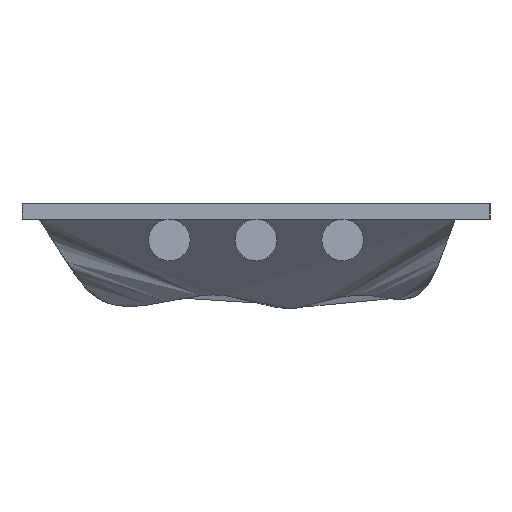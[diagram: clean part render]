
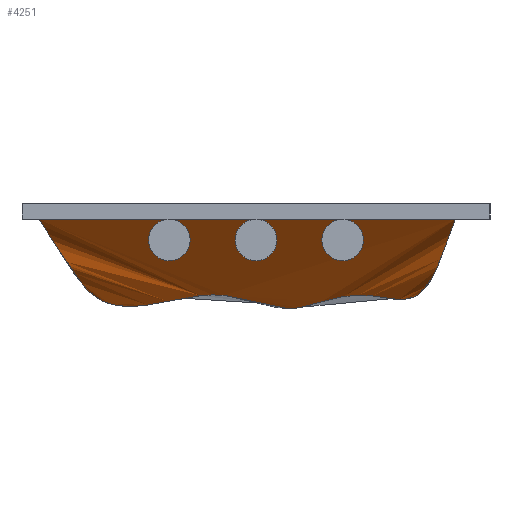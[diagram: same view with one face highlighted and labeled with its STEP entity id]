
A CAD part, left-side view. The second image highlights one B-rep face of the part: STEP entity #4251.
In plain terms, the highlighted free-form (B-spline) face has degree [3, 1] with [13, 2] control points.
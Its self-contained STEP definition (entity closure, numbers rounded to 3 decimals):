
#85=B_SPLINE_SURFACE_WITH_KNOTS('',3,1,((#8791,#8792),(#8793,#8794),(#8795,
#8796),(#8797,#8798),(#8799,#8800),(#8801,#8802),(#8803,#8804),(#8805,#8806),
(#8807,#8808),(#8809,#8810),(#8811,#8812),(#8813,#8814),(#8815,#8816)),
 .SURF_OF_LINEAR_EXTRUSION.,.F.,.F.,.F.,(4,1,1,1,1,1,1,1,1,1,4),(2,2),(0.,
0.225,0.337,0.449,0.562,
0.674,0.73,0.786,0.814,
0.842,0.899),(0.,1.),.UNSPECIFIED.);
#183=B_SPLINE_CURVE_WITH_KNOTS('',3,(#8727,#8728,#8729,#8730,#8731,#8732,
#8733,#8734,#8735,#8736,#8737,#8738,#8739,#8740,#8741,#8742,#8743,#8744,
#8745,#8746,#8747,#8748,#8749,#8750,#8751,#8752,#8753,#8754,#8755,#8756),
 .UNSPECIFIED.,.F.,.F.,(4,1,1,1,1,1,1,1,1,1,1,1,1,1,1,1,1,1,1,1,1,1,1,1,
1,1,1,4),(0.,0.001,0.001,
0.002,0.002,0.003,0.003,
0.004,0.004,0.005,0.005,
0.006,0.006,0.007,0.007,
0.008,0.009,0.01,0.011,
0.011,0.012,0.012,0.013,
0.013,0.014,0.014,0.015,
0.016),.UNSPECIFIED.);
#1331=ORIENTED_EDGE('',*,*,#1908,.T.);
#1332=ORIENTED_EDGE('',*,*,#1905,.F.);
#1905=EDGE_CURVE('',#2297,#2298,#183,.T.);
#1908=EDGE_CURVE('',#2297,#2298,#2775,.T.);
#2297=VERTEX_POINT('',#8726);
#2298=VERTEX_POINT('',#8757);
#2775=LINE('',#8789,#3252);
#3252=VECTOR('',#5423,1000.);
#3537=EDGE_LOOP('',(#1331,#1332));
#3822=FACE_BOUND('',#3537,.T.);
#4251=ADVANCED_FACE('',(#3822),#85,.T.);
#5423=DIRECTION('',(1.,0.,0.));
#8726=CARTESIAN_POINT('',(0.,0.,0.));
#8727=CARTESIAN_POINT('',(0.,0.,0.));
#8728=CARTESIAN_POINT('',(0.071,0.196,-0.26));
#8729=CARTESIAN_POINT('',(0.173,0.461,-0.683));
#8730=CARTESIAN_POINT('',(0.376,1.02,-0.988));
#8731=CARTESIAN_POINT('',(0.547,1.451,-1.199));
#8732=CARTESIAN_POINT('',(0.683,1.716,-1.599));
#8733=CARTESIAN_POINT('',(0.842,2.007,-1.985));
#8734=CARTESIAN_POINT('',(1.241,2.321,-2.149));
#8735=CARTESIAN_POINT('',(1.757,2.325,-2.16));
#8736=CARTESIAN_POINT('',(2.248,2.228,-2.098));
#8737=CARTESIAN_POINT('',(2.747,2.174,-2.065));
#8738=CARTESIAN_POINT('',(3.246,2.222,-2.094));
#8739=CARTESIAN_POINT('',(3.749,2.343,-2.169));
#8740=CARTESIAN_POINT('',(4.225,2.503,-2.277));
#8741=CARTESIAN_POINT('',(4.722,2.601,-2.442));
#8742=CARTESIAN_POINT('',(5.235,2.539,-2.325));
#8743=CARTESIAN_POINT('',(5.874,2.369,-2.176));
#8744=CARTESIAN_POINT('',(6.686,2.126,-2.038));
#8745=CARTESIAN_POINT('',(7.737,2.238,-2.104));
#8746=CARTESIAN_POINT('',(8.572,2.437,-2.227));
#8747=CARTESIAN_POINT('',(9.251,2.528,-2.325));
#8748=CARTESIAN_POINT('',(9.784,2.509,-2.297));
#8749=CARTESIAN_POINT('',(10.271,2.345,-2.158));
#8750=CARTESIAN_POINT('',(10.664,2.011,-1.991));
#8751=CARTESIAN_POINT('',(10.889,1.719,-1.603));
#8752=CARTESIAN_POINT('',(11.081,1.446,-1.195));
#8753=CARTESIAN_POINT('',(11.352,1.023,-0.989));
#8754=CARTESIAN_POINT('',(11.699,0.483,-0.702));
#8755=CARTESIAN_POINT('',(11.876,0.2,-0.265));
#8756=CARTESIAN_POINT('',(12.,0.,0.));
#8757=CARTESIAN_POINT('',(12.,0.,0.));
#8789=CARTESIAN_POINT('',(0.,0.,0.));
#8791=CARTESIAN_POINT('',(12.072,0.,0.));
#8792=CARTESIAN_POINT('',(-0.072,0.,0.));
#8793=CARTESIAN_POINT('',(12.072,0.201,-0.266));
#8794=CARTESIAN_POINT('',(-0.072,0.201,-0.266));
#8795=CARTESIAN_POINT('',(12.072,0.44,-0.647));
#8796=CARTESIAN_POINT('',(-0.072,0.44,-0.647));
#8797=CARTESIAN_POINT('',(12.072,0.951,-0.959));
#8798=CARTESIAN_POINT('',(-0.072,0.951,-0.959));
#8799=CARTESIAN_POINT('',(12.072,1.389,-1.157));
#8800=CARTESIAN_POINT('',(-0.072,1.389,-1.157));
#8801=CARTESIAN_POINT('',(12.072,1.681,-1.519));
#8802=CARTESIAN_POINT('',(-0.072,1.681,-1.519));
#8803=CARTESIAN_POINT('',(12.072,1.893,-1.872));
#8804=CARTESIAN_POINT('',(-0.072,1.893,-1.872));
#8805=CARTESIAN_POINT('',(12.072,2.174,-2.069));
#8806=CARTESIAN_POINT('',(-0.072,2.174,-2.069));
#8807=CARTESIAN_POINT('',(12.072,2.355,-2.173));
#8808=CARTESIAN_POINT('',(-0.072,2.355,-2.173));
#8809=CARTESIAN_POINT('',(12.072,2.483,-2.273));
#8810=CARTESIAN_POINT('',(-0.072,2.483,-2.273));
#8811=CARTESIAN_POINT('',(12.072,2.553,-2.353));
#8812=CARTESIAN_POINT('',(-0.072,2.553,-2.353));
#8813=CARTESIAN_POINT('',(12.072,2.57,-2.384));
#8814=CARTESIAN_POINT('',(-0.072,2.57,-2.384));
#8815=CARTESIAN_POINT('',(12.072,2.584,-2.414));
#8816=CARTESIAN_POINT('',(-0.072,2.584,-2.414));
